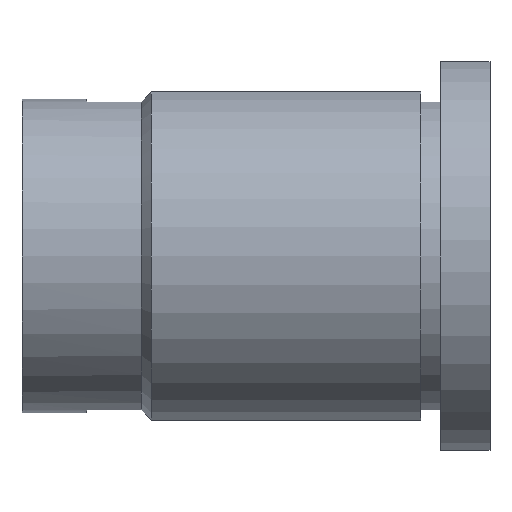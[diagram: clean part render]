
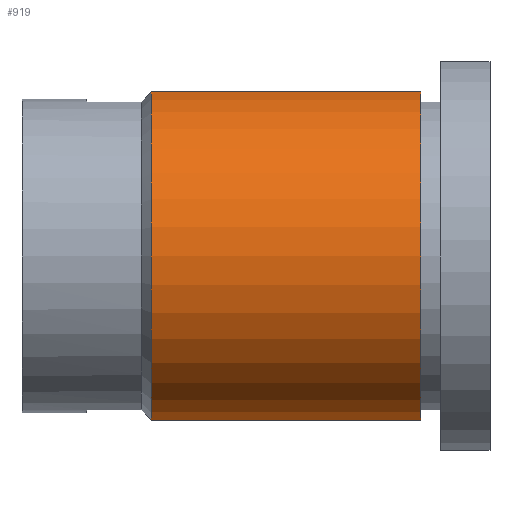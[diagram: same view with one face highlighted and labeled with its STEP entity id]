
A CAD part, front view. The second image highlights one B-rep face of the part: STEP entity #919.
In plain terms, the highlighted cylindrical face has radius 3.35 mm (diameter 6.7 mm), a partial arc.
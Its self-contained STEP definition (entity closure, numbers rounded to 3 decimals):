
#23 = AXIS2_PLACEMENT_3D ( 'NONE', #226, #544, #603 ) ;
#27 = VERTEX_POINT ( 'NONE', #731 ) ;
#34 = CARTESIAN_POINT ( 'NONE',  ( 11.788, -0.6, -3.296 ) ) ;
#46 = ORIENTED_EDGE ( 'NONE', *, *, #946, .F. ) ;
#52 = AXIS2_PLACEMENT_3D ( 'NONE', #668, #989, #275 ) ;
#71 = VERTEX_POINT ( 'NONE', #697 ) ;
#125 = EDGE_LOOP ( 'NONE', ( #386, #46, #831, #470 ) ) ;
#203 = EDGE_CURVE ( 'NONE', #993, #27, #1019, .T. ) ;
#204 = LINE ( 'NONE', #923, #397 ) ;
#214 = DIRECTION ( 'NONE',  ( 0., 0., 1. ) ) ;
#226 = CARTESIAN_POINT ( 'NONE',  ( -6.8, 0., 0. ) ) ;
#227 = AXIS2_PLACEMENT_3D ( 'NONE', #408, #256, #214 ) ;
#256 = DIRECTION ( 'NONE',  ( 1., 0., 0. ) ) ;
#275 = DIRECTION ( 'NONE',  ( 0., 0., -1. ) ) ;
#309 = VERTEX_POINT ( 'NONE', #311 ) ;
#311 = CARTESIAN_POINT ( 'NONE',  ( -1.39, -0.6, 3.296 ) ) ;
#328 = VECTOR ( 'NONE', #1016, 1000. ) ;
#350 = CYLINDRICAL_SURFACE ( 'NONE', #52, 3.35 ) ;
#386 = ORIENTED_EDGE ( 'NONE', *, *, #517, .F. ) ;
#397 = VECTOR ( 'NONE', #453, 1000. ) ;
#408 = CARTESIAN_POINT ( 'NONE',  ( -1.39, 0., 0. ) ) ;
#453 = DIRECTION ( 'NONE',  ( 1., 0., 0. ) ) ;
#470 = ORIENTED_EDGE ( 'NONE', *, *, #203, .T. ) ;
#517 = EDGE_CURVE ( 'NONE', #71, #27, #608, .T. ) ;
#540 = EDGE_CURVE ( 'NONE', #993, #309, #204, .T. ) ;
#544 = DIRECTION ( 'NONE',  ( 1., 0., 0. ) ) ;
#564 = FACE_OUTER_BOUND ( 'NONE', #125, .T. ) ;
#603 = DIRECTION ( 'NONE',  ( 0., 0., -1. ) ) ;
#608 = LINE ( 'NONE', #34, #328 ) ;
#668 = CARTESIAN_POINT ( 'NONE',  ( 11.788, 0., 0. ) ) ;
#676 = CIRCLE ( 'NONE', #227, 3.35 ) ;
#697 = CARTESIAN_POINT ( 'NONE',  ( -1.39, -0.6, -3.296 ) ) ;
#731 = CARTESIAN_POINT ( 'NONE',  ( -6.8, -0.6, -3.296 ) ) ;
#831 = ORIENTED_EDGE ( 'NONE', *, *, #540, .F. ) ;
#849 = CARTESIAN_POINT ( 'NONE',  ( -6.8, -0.6, 3.296 ) ) ;
#919 = ADVANCED_FACE ( 'NONE', ( #564 ), #350, .T. ) ;
#923 = CARTESIAN_POINT ( 'NONE',  ( 11.788, -0.6, 3.296 ) ) ;
#946 = EDGE_CURVE ( 'NONE', #309, #71, #676, .T. ) ;
#989 = DIRECTION ( 'NONE',  ( 1., 0., 0. ) ) ;
#993 = VERTEX_POINT ( 'NONE', #849 ) ;
#1016 = DIRECTION ( 'NONE',  ( -1., 0., 0. ) ) ;
#1019 = CIRCLE ( 'NONE', #23, 3.35 ) ;
